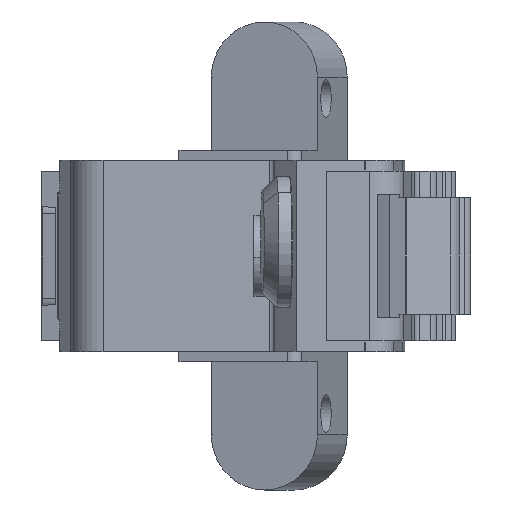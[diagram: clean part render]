
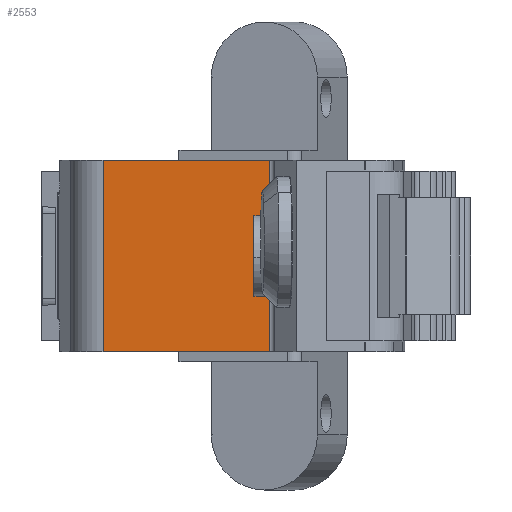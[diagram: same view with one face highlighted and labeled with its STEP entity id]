
A CAD part, left-side view. The second image highlights one B-rep face of the part: STEP entity #2553.
In plain terms, the highlighted planar face has unit normal (-1, 0.033, 0).
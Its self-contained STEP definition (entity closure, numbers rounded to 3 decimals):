
#164 = FACE_OUTER_BOUND ( 'NONE', #2109, .T. ) ;
#165 = EDGE_CURVE ( 'NONE', #3719, #1400, #1627, .T. ) ;
#277 = VERTEX_POINT ( 'NONE', #2419 ) ;
#743 = CARTESIAN_POINT ( 'NONE',  ( -30.198, 17.466, -42.856 ) ) ;
#763 = EDGE_CURVE ( 'NONE', #3719, #7132, #3656, .T. ) ;
#861 = VECTOR ( 'NONE', #2183, 1000. ) ;
#1085 = EDGE_CURVE ( 'NONE', #4551, #7745, #7864, .T. ) ;
#1141 = VECTOR ( 'NONE', #4895, 1000. ) ;
#1194 = EDGE_CURVE ( 'NONE', #1449, #277, #8035, .T. ) ;
#1400 = VERTEX_POINT ( 'NONE', #1598 ) ;
#1412 = EDGE_CURVE ( 'NONE', #1449, #7132, #2801, .T. ) ;
#1449 = VERTEX_POINT ( 'NONE', #4098 ) ;
#1598 = CARTESIAN_POINT ( 'NONE',  ( -30.679, 2.681, 8.5 ) ) ;
#1627 = LINE ( 'NONE', #5250, #5548 ) ;
#1695 = ORIENTED_EDGE ( 'NONE', *, *, #1194, .F. ) ;
#1723 = VECTOR ( 'NONE', #7816, 1000. ) ;
#1734 = CARTESIAN_POINT ( 'NONE',  ( -30.679, 2.681, 8.502 ) ) ;
#1814 = LINE ( 'NONE', #1734, #7651 ) ;
#1962 = DIRECTION ( 'NONE',  ( -0.033, -0.999, 0. ) ) ;
#2109 = EDGE_LOOP ( 'NONE', ( #5080, #7958, #5243, #4846, #6195, #6239, #4274, #1695 ) ) ;
#2183 = DIRECTION ( 'NONE',  ( 0., 0., 1. ) ) ;
#2419 = CARTESIAN_POINT ( 'NONE',  ( -30.679, 2.681, -6.7 ) ) ;
#2553 = ADVANCED_FACE ( 'NONE', ( #164 ), #6315, .T. ) ;
#2568 = AXIS2_PLACEMENT_3D ( 'NONE', #743, #2711, #5159 ) ;
#2595 = LINE ( 'NONE', #7643, #5034 ) ;
#2711 = DIRECTION ( 'NONE',  ( -0.999, 0.033, 0. ) ) ;
#2761 = CARTESIAN_POINT ( 'NONE',  ( -30.679, 2.682, 6.7 ) ) ;
#2801 = LINE ( 'NONE', #3968, #1723 ) ;
#2951 = CARTESIAN_POINT ( 'NONE',  ( -30.197, 16.474, 6.7 ) ) ;
#3458 = VERTEX_POINT ( 'NONE', #4108 ) ;
#3574 = CARTESIAN_POINT ( 'NONE',  ( -30.198, 17.466, 8.5 ) ) ;
#3645 = DIRECTION ( 'NONE',  ( 0., 0., -1. ) ) ;
#3656 = LINE ( 'NONE', #2951, #5417 ) ;
#3684 = CARTESIAN_POINT ( 'NONE',  ( -30.197, 16.474, -6.7 ) ) ;
#3719 = VERTEX_POINT ( 'NONE', #5170 ) ;
#3968 = CARTESIAN_POINT ( 'NONE',  ( -30.679, 2.682, -42.856 ) ) ;
#4098 = CARTESIAN_POINT ( 'NONE',  ( -30.679, 2.682, -6.7 ) ) ;
#4108 = CARTESIAN_POINT ( 'NONE',  ( -30.679, 2.681, -8.5 ) ) ;
#4110 = CARTESIAN_POINT ( 'NONE',  ( -30.198, 17.466, 8.5 ) ) ;
#4274 = ORIENTED_EDGE ( 'NONE', *, *, #6697, .F. ) ;
#4551 = VERTEX_POINT ( 'NONE', #6557 ) ;
#4552 = DIRECTION ( 'NONE',  ( 0., 0., 1. ) ) ;
#4846 = ORIENTED_EDGE ( 'NONE', *, *, #8031, .F. ) ;
#4895 = DIRECTION ( 'NONE',  ( -0.035, -0.999, 0. ) ) ;
#5034 = VECTOR ( 'NONE', #1962, 1000. ) ;
#5080 = ORIENTED_EDGE ( 'NONE', *, *, #1412, .T. ) ;
#5159 = DIRECTION ( 'NONE',  ( -0.033, -0.999, 0. ) ) ;
#5170 = CARTESIAN_POINT ( 'NONE',  ( -30.679, 2.681, 6.7 ) ) ;
#5243 = ORIENTED_EDGE ( 'NONE', *, *, #165, .T. ) ;
#5250 = CARTESIAN_POINT ( 'NONE',  ( -30.679, 2.681, -8.502 ) ) ;
#5304 = CARTESIAN_POINT ( 'NONE',  ( -30.198, 17.466, -42.856 ) ) ;
#5417 = VECTOR ( 'NONE', #6183, 1000. ) ;
#5548 = VECTOR ( 'NONE', #4552, 1000. ) ;
#6183 = DIRECTION ( 'NONE',  ( 0.035, 0.999, 0. ) ) ;
#6195 = ORIENTED_EDGE ( 'NONE', *, *, #1085, .F. ) ;
#6239 = ORIENTED_EDGE ( 'NONE', *, *, #7127, .T. ) ;
#6315 = PLANE ( 'NONE',  #2568 ) ;
#6557 = CARTESIAN_POINT ( 'NONE',  ( -30.198, 17.466, -8.5 ) ) ;
#6626 = DIRECTION ( 'NONE',  ( -0.033, -0.999, 0. ) ) ;
#6697 = EDGE_CURVE ( 'NONE', #277, #3458, #1814, .T. ) ;
#7127 = EDGE_CURVE ( 'NONE', #4551, #3458, #2595, .T. ) ;
#7132 = VERTEX_POINT ( 'NONE', #2761 ) ;
#7161 = LINE ( 'NONE', #4110, #7415 ) ;
#7415 = VECTOR ( 'NONE', #6626, 1000. ) ;
#7643 = CARTESIAN_POINT ( 'NONE',  ( -30.198, 17.466, -8.5 ) ) ;
#7651 = VECTOR ( 'NONE', #3645, 1000. ) ;
#7745 = VERTEX_POINT ( 'NONE', #3574 ) ;
#7816 = DIRECTION ( 'NONE',  ( 0., 0., 1. ) ) ;
#7864 = LINE ( 'NONE', #5304, #861 ) ;
#7958 = ORIENTED_EDGE ( 'NONE', *, *, #763, .F. ) ;
#8031 = EDGE_CURVE ( 'NONE', #7745, #1400, #7161, .T. ) ;
#8035 = LINE ( 'NONE', #3684, #1141 ) ;
